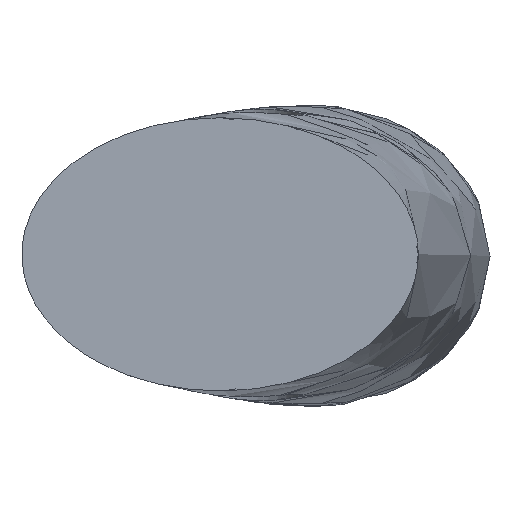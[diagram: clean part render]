
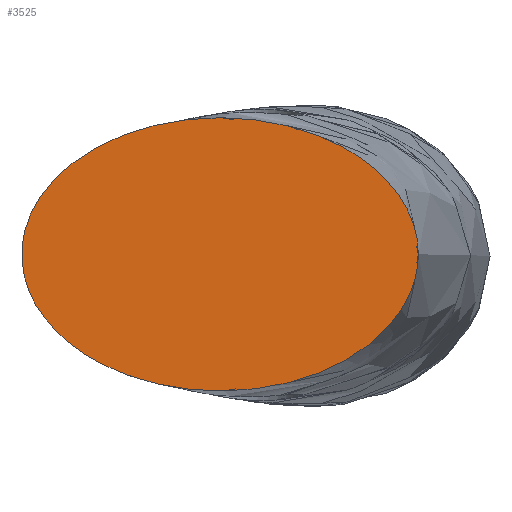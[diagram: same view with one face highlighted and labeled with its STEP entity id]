
A CAD part, top view. The second image highlights one B-rep face of the part: STEP entity #3525.
In plain terms, the highlighted planar face has unit normal (0, 0, 1).
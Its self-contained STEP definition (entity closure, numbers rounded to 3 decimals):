
#22 = VERTEX_POINT('',#23);
#23 = CARTESIAN_POINT('',(14.514,0.,18.));
#32 = B_SPLINE_SURFACE_WITH_KNOTS('',14,2,(
    (#33,#34,#35)
    ,(#36,#37,#38)
    ,(#39,#40,#41)
    ,(#42,#43,#44)
    ,(#45,#46,#47)
    ,(#48,#49,#50)
    ,(#51,#52,#53)
    ,(#54,#55,#56)
    ,(#57,#58,#59)
    ,(#60,#61,#62)
    ,(#63,#64,#65)
    ,(#66,#67,#68)
    ,(#69,#70,#71)
    ,(#72,#73,#74)
    ,(#75,#76,#77
    )),.UNSPECIFIED.,.T.,.F.,.F.,(15,15),(3,3),(0.,1.),(0.,1.),
  .PIECEWISE_BEZIER_KNOTS.);
#33 = CARTESIAN_POINT('',(14.514,0.,18.));
#34 = CARTESIAN_POINT('',(26.644,0.,
    -69.857));
#35 = CARTESIAN_POINT('',(10.76,0.,-158.));
#36 = CARTESIAN_POINT('',(14.514,4.488,18.));
#37 = CARTESIAN_POINT('',(26.644,5.898,-69.857
    ));
#38 = CARTESIAN_POINT('',(10.76,3.142,-158.));
#39 = CARTESIAN_POINT('',(11.366,8.976,18.));
#40 = CARTESIAN_POINT('',(23.98,11.796,
    -69.857));
#41 = CARTESIAN_POINT('',(8.426,6.283,-158.));
#42 = CARTESIAN_POINT('',(5.069,12.328,18.));
#43 = CARTESIAN_POINT('',(18.65,16.201,
    -69.857));
#44 = CARTESIAN_POINT('',(3.758,8.63,-158.));
#45 = CARTESIAN_POINT('',(-3.434,13.409,18.));
#46 = CARTESIAN_POINT('',(11.453,17.621,
    -69.857));
#47 = CARTESIAN_POINT('',(-2.546,9.386,-158.));
#48 = CARTESIAN_POINT('',(-12.261,11.49,18.));
#49 = CARTESIAN_POINT('',(3.982,15.099,-69.857
    ));
#50 = CARTESIAN_POINT('',(-9.09,8.043,-158.));
#51 = CARTESIAN_POINT('',(-18.999,6.659,18.));
#52 = CARTESIAN_POINT('',(-1.721,8.751,-69.857
    ));
#53 = CARTESIAN_POINT('',(-14.086,4.661,-158.));
#54 = CARTESIAN_POINT('',(-21.536,0.,18.));
#55 = CARTESIAN_POINT('',(-3.868,0.,
    -69.857));
#56 = CARTESIAN_POINT('',(-15.966,0.,-158.));
#57 = CARTESIAN_POINT('',(-18.999,-6.659,18.));
#58 = CARTESIAN_POINT('',(-1.721,-8.751,
    -69.857));
#59 = CARTESIAN_POINT('',(-14.086,-4.661,-158.));
#60 = CARTESIAN_POINT('',(-12.261,-11.49,18.));
#61 = CARTESIAN_POINT('',(3.982,-15.099,-69.857
    ));
#62 = CARTESIAN_POINT('',(-9.09,-8.043,-158.));
#63 = CARTESIAN_POINT('',(-3.434,-13.409,18.));
#64 = CARTESIAN_POINT('',(11.453,-17.621,
    -69.857));
#65 = CARTESIAN_POINT('',(-2.546,-9.386,-158.));
#66 = CARTESIAN_POINT('',(5.069,-12.328,18.));
#67 = CARTESIAN_POINT('',(18.65,-16.201,
    -69.857));
#68 = CARTESIAN_POINT('',(3.758,-8.63,-158.));
#69 = CARTESIAN_POINT('',(11.366,-8.976,18.));
#70 = CARTESIAN_POINT('',(23.98,-11.796,
    -69.857));
#71 = CARTESIAN_POINT('',(8.426,-6.283,-158.));
#72 = CARTESIAN_POINT('',(14.514,-4.488,18.));
#73 = CARTESIAN_POINT('',(26.644,-5.898,-69.857)
  );
#74 = CARTESIAN_POINT('',(10.76,-3.142,-158.));
#75 = CARTESIAN_POINT('',(14.514,0.,18.));
#76 = CARTESIAN_POINT('',(26.644,0.,
    -69.857));
#77 = CARTESIAN_POINT('',(10.76,0.,-158.));
#92 = EDGE_CURVE('',#22,#22,#93,.T.);
#93 = SURFACE_CURVE('',#94,(#110,#117),.PCURVE_S1.);
#94 = B_SPLINE_CURVE_WITH_KNOTS('',14,(#95,#96,#97,#98,#99,#100,#101,
    #102,#103,#104,#105,#106,#107,#108,#109),.UNSPECIFIED.,.T.,.F.,(15,
    15),(0.,1.),.PIECEWISE_BEZIER_KNOTS.);
#95 = CARTESIAN_POINT('',(14.514,0.,18.));
#96 = CARTESIAN_POINT('',(14.514,4.488,18.));
#97 = CARTESIAN_POINT('',(11.366,8.976,18.));
#98 = CARTESIAN_POINT('',(5.069,12.328,18.));
#99 = CARTESIAN_POINT('',(-3.434,13.409,18.));
#100 = CARTESIAN_POINT('',(-12.261,11.49,18.));
#101 = CARTESIAN_POINT('',(-18.999,6.659,18.));
#102 = CARTESIAN_POINT('',(-21.536,0.,18.));
#103 = CARTESIAN_POINT('',(-18.999,-6.659,18.));
#104 = CARTESIAN_POINT('',(-12.261,-11.49,18.));
#105 = CARTESIAN_POINT('',(-3.434,-13.409,18.));
#106 = CARTESIAN_POINT('',(5.069,-12.328,18.));
#107 = CARTESIAN_POINT('',(11.366,-8.976,18.));
#108 = CARTESIAN_POINT('',(14.514,-4.488,18.));
#109 = CARTESIAN_POINT('',(14.514,0.,18.));
#110 = PCURVE('',#32,#111);
#111 = DEFINITIONAL_REPRESENTATION('',(#112),#116);
#112 = LINE('',#113,#114);
#113 = CARTESIAN_POINT('',(0.,0.));
#114 = VECTOR('',#115,1.);
#115 = DIRECTION('',(1.,0.));
#116 = ( GEOMETRIC_REPRESENTATION_CONTEXT(2) 
PARAMETRIC_REPRESENTATION_CONTEXT() REPRESENTATION_CONTEXT('2D SPACE',''
  ) );
#117 = PCURVE('',#118,#123);
#118 = PLANE('',#119);
#119 = AXIS2_PLACEMENT_3D('',#120,#121,#122);
#120 = CARTESIAN_POINT('',(14.514,0.,18.));
#121 = DIRECTION('',(0.,0.,1.));
#122 = DIRECTION('',(-1.,0.,0.));
#123 = DEFINITIONAL_REPRESENTATION('',(#124),#140);
#124 = B_SPLINE_CURVE_WITH_KNOTS('',14,(#125,#126,#127,#128,#129,#130,
    #131,#132,#133,#134,#135,#136,#137,#138,#139),.UNSPECIFIED.,.T.,.F.,
  (15,15),(0.,1.),.PIECEWISE_BEZIER_KNOTS.);
#125 = CARTESIAN_POINT('',(0.,0.));
#126 = CARTESIAN_POINT('',(0.,-4.488));
#127 = CARTESIAN_POINT('',(3.148,-8.976));
#128 = CARTESIAN_POINT('',(9.445,-12.328));
#129 = CARTESIAN_POINT('',(17.948,-13.409));
#130 = CARTESIAN_POINT('',(26.775,-11.49));
#131 = CARTESIAN_POINT('',(33.513,-6.659));
#132 = CARTESIAN_POINT('',(36.05,0.));
#133 = CARTESIAN_POINT('',(33.513,6.659));
#134 = CARTESIAN_POINT('',(26.775,11.49));
#135 = CARTESIAN_POINT('',(17.948,13.409));
#136 = CARTESIAN_POINT('',(9.445,12.328));
#137 = CARTESIAN_POINT('',(3.148,8.976));
#138 = CARTESIAN_POINT('',(0.,4.488));
#139 = CARTESIAN_POINT('',(0.,0.));
#140 = ( GEOMETRIC_REPRESENTATION_CONTEXT(2) 
PARAMETRIC_REPRESENTATION_CONTEXT() REPRESENTATION_CONTEXT('2D SPACE',''
  ) );
#3525 = ADVANCED_FACE('',(#3526),#118,.T.);
#3526 = FACE_BOUND('',#3527,.F.);
#3527 = EDGE_LOOP('',(#3528));
#3528 = ORIENTED_EDGE('',*,*,#92,.F.);
